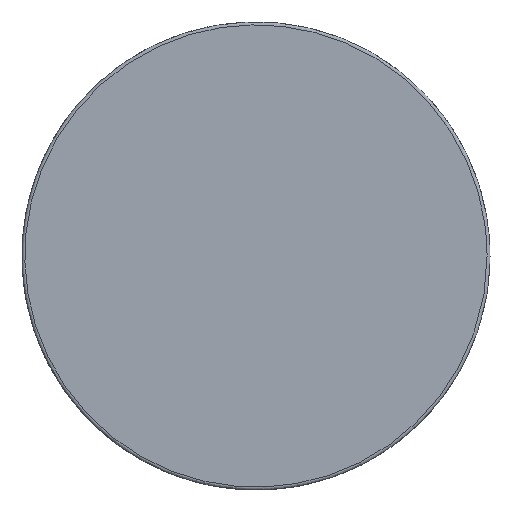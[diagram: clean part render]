
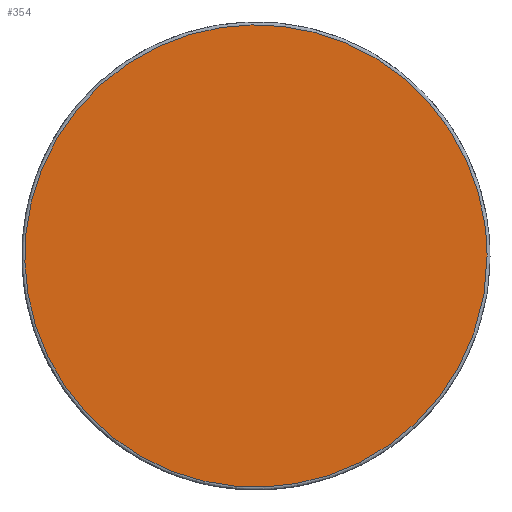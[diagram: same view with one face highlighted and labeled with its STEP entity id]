
A CAD part, top view. The second image highlights one B-rep face of the part: STEP entity #354.
In plain terms, the highlighted planar face has unit normal (0, 0, 1).
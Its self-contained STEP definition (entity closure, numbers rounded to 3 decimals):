
#354=ADVANCED_FACE('',(#607),#3391,.T.);
#607=FACE_OUTER_BOUND('',#880,.T.);
#880=EDGE_LOOP('',(#1893));
#1893=ORIENTED_EDGE('',*,*,#2414,.F.);
#2414=EDGE_CURVE('',#3230,#3230,#2925,.T.);
#2925=(
BOUNDED_CURVE()
B_SPLINE_CURVE(2,(#8705,#8706,#8707,#8708,#8709,#8710,#8711,#8712,#8713),
 .UNSPECIFIED.,.T.,.F.)
B_SPLINE_CURVE_WITH_KNOTS((3,2,2,2,3),(0.,1240.927,2481.854,
3722.781,4963.709),.UNSPECIFIED.)
CURVE()
GEOMETRIC_REPRESENTATION_ITEM()
RATIONAL_B_SPLINE_CURVE((1.,0.707,1.,0.707,1.,0.707,
1.,0.707,1.))
REPRESENTATION_ITEM('')
);
#3230=VERTEX_POINT('',#8688);
#3391=PLANE('',#3704);
#3704=AXIS2_PLACEMENT_3D('',#8613,#3867,$);
#3867=DIRECTION('',(0.,0.,1.));
#8613=CARTESIAN_POINT('',(15365.689,-7228.486,745.024));
#8688=CARTESIAN_POINT('',(17155.689,-8228.486,745.024));
#8705=CARTESIAN_POINT('',(17155.689,-8228.486,745.024));
#8706=CARTESIAN_POINT('',(17155.689,-9018.486,745.024));
#8707=CARTESIAN_POINT('',(16365.689,-9018.486,745.024));
#8708=CARTESIAN_POINT('',(15575.689,-9018.486,745.024));
#8709=CARTESIAN_POINT('',(15575.689,-8228.486,745.024));
#8710=CARTESIAN_POINT('',(15575.689,-7438.486,745.024));
#8711=CARTESIAN_POINT('',(16365.689,-7438.486,745.024));
#8712=CARTESIAN_POINT('',(17155.689,-7438.486,745.024));
#8713=CARTESIAN_POINT('',(17155.689,-8228.486,745.024));
